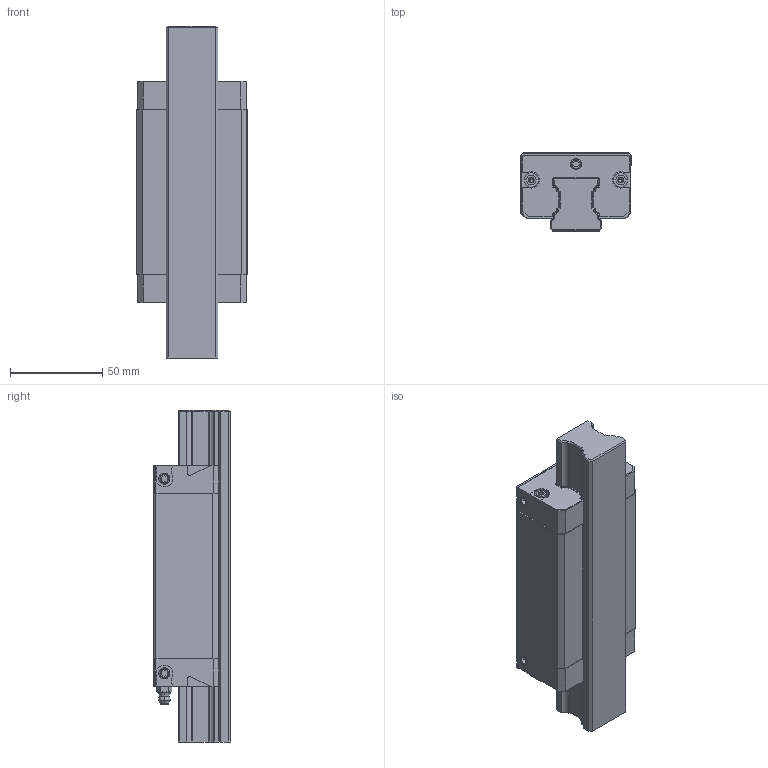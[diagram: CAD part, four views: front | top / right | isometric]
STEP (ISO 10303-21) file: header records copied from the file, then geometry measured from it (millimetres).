
FILE_DESCRIPTION((''),'2;1');
FILE_NAME('KWD_030_SLS_CS__ASM','2021-10-14T07:07:29',('ac91sw'),(''),'CREO PARAMETRIC BY PTC INC, 2020044','CREO PARAMETRIC BY PTC INC, 2020044','');
FILE_SCHEMA(('AUTOMOTIVE_DESIGN { 1 0 10303 214 1 1 1 1 }'));
Length unit declared in the file: millimetre
Products named in the file (7): KWD_030_SLS_CS__SKEL; R201270101; R200170102_Z; R343706101_Z; KWD_030_SLS_CS__PSF; R341700802_Z; KWD_030_SLS_CS__ASM
Assembly tree (11 placements, depth 2):
  KWD_030_SLS_CS__ASM
    KWD_030_SLS_CS__SKEL
    R201270101
    R200170102_Z  x2
    R343706101_Z  x5
    KWD_030_SLS_CS__PSF
    R341700802_Z
Bounding box: 60 x 42 x 179.7 mm (x, y, z)
Volume: 274276.3 mm3; surface area: 72640.9 mm2
Topology: 10 solids, 24 shells, 512 faces, 1310 edges, 830 vertices
Faces by surface type: plane 292, cylinder 142, cone 72, torus 4, sphere 2
Entity records: 16420 total; most frequent: CARTESIAN_POINT 1941, DIRECTION 1648, ORIENTED_EDGE 1540, PROPERTY_DEFINITION 822, REPRESENTATION 813, PROPERTY_DEFINITION_REPRESENTATION 813, EDGE_CURVE 786, DESCRIPTIVE_REPRESENTATION_ITEM 756
